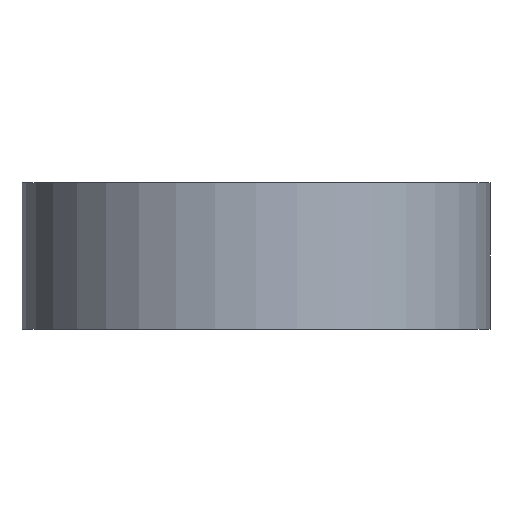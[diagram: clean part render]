
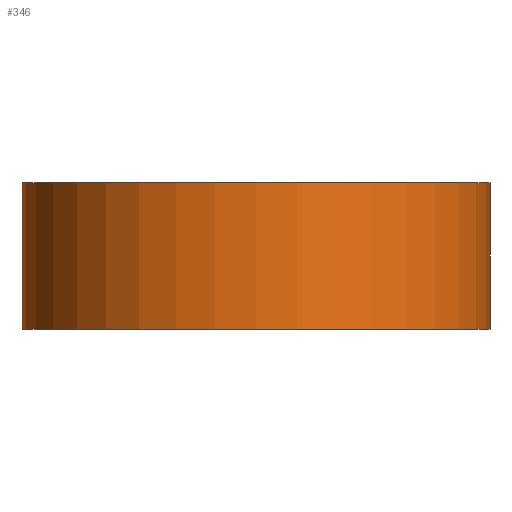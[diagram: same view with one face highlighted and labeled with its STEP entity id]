
A CAD part, left-side view. The second image highlights one B-rep face of the part: STEP entity #346.
In plain terms, the highlighted cylindrical face has radius 8 mm (diameter 16 mm), a partial arc.
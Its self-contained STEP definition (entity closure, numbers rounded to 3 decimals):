
#288=CARTESIAN_POINT('',(-132.0,-8.0,5.0));
#289=VERTEX_POINT('',#288);
#296=CARTESIAN_POINT('',(-132.0,-8.0,0.0));
#297=VERTEX_POINT('',#296);
#298=CARTESIAN_POINT('',(-132.0,-8.0,0.0));
#299=DIRECTION('',(0.0,0.0,1.0));
#300=VECTOR('',#299,5.0);
#301=LINE('',#298,#300);
#302=EDGE_CURVE('',#297,#289,#301,.T.);
#314=CARTESIAN_POINT('',(-132.0,0.0,0.0));
#315=DIRECTION('',(0.0,0.0,-1.0));
#316=DIRECTION('',(0.0,1.0,0.0));
#317=AXIS2_PLACEMENT_3D('',#314,#315,#316);
#318=CYLINDRICAL_SURFACE('',#317,8.0);
#319=CARTESIAN_POINT('',(-132.0,8.0,5.0));
#320=VERTEX_POINT('',#319);
#321=CARTESIAN_POINT('',(-132.0,0.0,5.0));
#322=DIRECTION('',(0.0,0.0,-1.0));
#323=DIRECTION('',(0.0,1.0,0.0));
#324=AXIS2_PLACEMENT_3D('',#321,#322,#323);
#325=CIRCLE('',#324,8.0);
#326=EDGE_CURVE('',#289,#320,#325,.T.);
#327=ORIENTED_EDGE('',*,*,#326,.T.);
#328=CARTESIAN_POINT('',(-132.0,8.0,0.0));
#329=VERTEX_POINT('',#328);
#330=CARTESIAN_POINT('',(-132.0,8.0,0.0));
#331=DIRECTION('',(0.0,0.0,1.0));
#332=VECTOR('',#331,5.0);
#333=LINE('',#330,#332);
#334=EDGE_CURVE('',#329,#320,#333,.T.);
#335=ORIENTED_EDGE('',*,*,#334,.F.);
#336=CARTESIAN_POINT('',(-132.0,0.0,0.0));
#337=DIRECTION('',(0.0,0.0,1.0));
#338=DIRECTION('',(0.0,1.0,0.0));
#339=AXIS2_PLACEMENT_3D('',#336,#337,#338);
#340=CIRCLE('',#339,8.0);
#341=EDGE_CURVE('',#329,#297,#340,.T.);
#342=ORIENTED_EDGE('',*,*,#341,.T.);
#343=ORIENTED_EDGE('',*,*,#302,.T.);
#344=EDGE_LOOP('',(#327,#335,#342,#343));
#345=FACE_OUTER_BOUND('',#344,.T.);
#346=ADVANCED_FACE('',(#345),#318,.T.);
